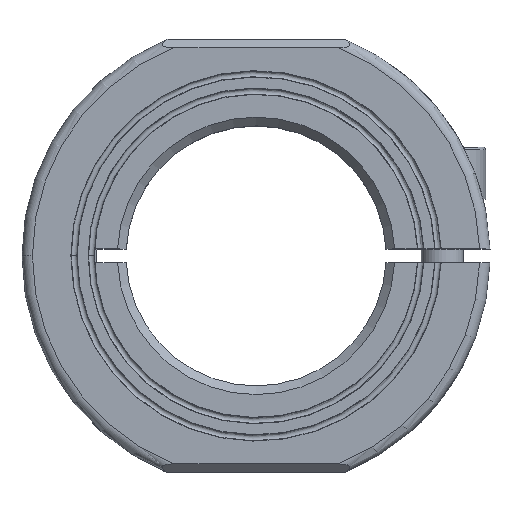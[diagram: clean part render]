
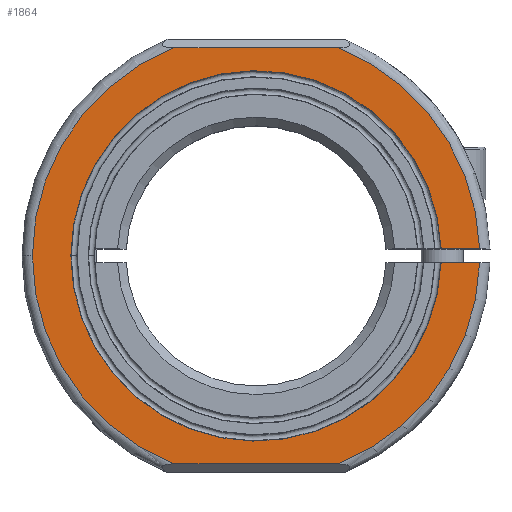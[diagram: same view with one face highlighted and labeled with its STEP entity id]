
A CAD part, top view. The second image highlights one B-rep face of the part: STEP entity #1864.
In plain terms, the highlighted planar face has unit normal (0, 0, 1).
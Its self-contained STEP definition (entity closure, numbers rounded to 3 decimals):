
#156 = CARTESIAN_POINT ( 'NONE',  ( 0., 0., 15. ) ) ;
#195 = AXIS2_PLACEMENT_3D ( 'NONE', #1852, #2628, #3399 ) ;
#203 = CARTESIAN_POINT ( 'NONE',  ( -9.468, 24., 15. ) ) ;
#281 = CIRCLE ( 'NONE', #331, 25.8 ) ;
#321 = VERTEX_POINT ( 'NONE', #514 ) ;
#329 = VECTOR ( 'NONE', #3091, 1000. ) ;
#331 = AXIS2_PLACEMENT_3D ( 'NONE', #2599, #2083, #2610 ) ;
#340 = AXIS2_PLACEMENT_3D ( 'NONE', #156, #3312, #959 ) ;
#364 = DIRECTION ( 'NONE',  ( 0., 0., 1. ) ) ;
#444 = EDGE_CURVE ( 'NONE', #1839, #1485, #2295, .T. ) ;
#480 = VERTEX_POINT ( 'NONE', #2028 ) ;
#492 = DIRECTION ( 'NONE',  ( 1., 0., 0. ) ) ;
#514 = CARTESIAN_POINT ( 'NONE',  ( -9.468, -24., 15. ) ) ;
#538 = CARTESIAN_POINT ( 'NONE',  ( -25.8, 0., 15. ) ) ;
#638 = LINE ( 'NONE', #3376, #2664 ) ;
#645 = ORIENTED_EDGE ( 'NONE', *, *, #1985, .F. ) ;
#685 = CIRCLE ( 'NONE', #1561, 25.8 ) ;
#770 = ORIENTED_EDGE ( 'NONE', *, *, #2685, .F. ) ;
#860 = VECTOR ( 'NONE', #2235, 1000. ) ;
#945 = LINE ( 'NONE', #3267, #860 ) ;
#959 = DIRECTION ( 'NONE',  ( 1., 0., 0. ) ) ;
#985 = EDGE_CURVE ( 'NONE', #1838, #1989, #281, .T. ) ;
#1002 = EDGE_CURVE ( 'NONE', #321, #3235, #2875, .T. ) ;
#1084 = EDGE_LOOP ( 'NONE', ( #2590, #2793, #2619, #770, #2914, #1547, #645, #1433, #3391 ) ) ;
#1123 = CARTESIAN_POINT ( 'NONE',  ( 25.788, 0.795, 15. ) ) ;
#1146 = EDGE_CURVE ( 'NONE', #1509, #1989, #945, .T. ) ;
#1281 = AXIS2_PLACEMENT_3D ( 'NONE', #1722, #2281, #2293 ) ;
#1325 = DIRECTION ( 'NONE',  ( 0., 0., -1. ) ) ;
#1379 = VECTOR ( 'NONE', #1741, 1000. ) ;
#1386 = DIRECTION ( 'NONE',  ( 1., 0., 0. ) ) ;
#1433 = ORIENTED_EDGE ( 'NONE', *, *, #1002, .T. ) ;
#1465 = EDGE_CURVE ( 'NONE', #1839, #480, #638, .T. ) ;
#1485 = VERTEX_POINT ( 'NONE', #2614 ) ;
#1509 = VERTEX_POINT ( 'NONE', #3076 ) ;
#1547 = ORIENTED_EDGE ( 'NONE', *, *, #985, .F. ) ;
#1561 = AXIS2_PLACEMENT_3D ( 'NONE', #2135, #1325, #3181 ) ;
#1717 = CARTESIAN_POINT ( 'NONE',  ( -18.377, 0.795, 15. ) ) ;
#1722 = CARTESIAN_POINT ( 'NONE',  ( 0., 0., 15. ) ) ;
#1741 = DIRECTION ( 'NONE',  ( -1., 0., 0. ) ) ;
#1838 = VERTEX_POINT ( 'NONE', #538 ) ;
#1839 = VERTEX_POINT ( 'NONE', #2075 ) ;
#1852 = CARTESIAN_POINT ( 'NONE',  ( 0., 0., 15. ) ) ;
#1855 = EDGE_CURVE ( 'NONE', #480, #3235, #685, .T. ) ;
#1864 = ADVANCED_FACE ( 'NONE', ( #3393 ), #2159, .T. ) ;
#1957 = AXIS2_PLACEMENT_3D ( 'NONE', #3160, #364, #1386 ) ;
#1985 = EDGE_CURVE ( 'NONE', #321, #1838, #2516, .T. ) ;
#1989 = VERTEX_POINT ( 'NONE', #203 ) ;
#2028 = CARTESIAN_POINT ( 'NONE',  ( 25.788, -0.795, 15. ) ) ;
#2075 = CARTESIAN_POINT ( 'NONE',  ( 21.352, -0.795, 15. ) ) ;
#2083 = DIRECTION ( 'NONE',  ( 0., 0., -1. ) ) ;
#2135 = CARTESIAN_POINT ( 'NONE',  ( 0., 0., 15. ) ) ;
#2159 = PLANE ( 'NONE',  #1957 ) ;
#2235 = DIRECTION ( 'NONE',  ( -1., 0., 0. ) ) ;
#2276 = CARTESIAN_POINT ( 'NONE',  ( 9.468, -24., 15. ) ) ;
#2281 = DIRECTION ( 'NONE',  ( 0., 0., -1. ) ) ;
#2293 = DIRECTION ( 'NONE',  ( -1., 0., 0. ) ) ;
#2295 = CIRCLE ( 'NONE', #340, 21.367 ) ;
#2516 = CIRCLE ( 'NONE', #195, 25.8 ) ;
#2590 = ORIENTED_EDGE ( 'NONE', *, *, #1465, .F. ) ;
#2599 = CARTESIAN_POINT ( 'NONE',  ( 0., 0., 15. ) ) ;
#2610 = DIRECTION ( 'NONE',  ( -1., 0., 0. ) ) ;
#2614 = CARTESIAN_POINT ( 'NONE',  ( 21.352, 0.795, 15. ) ) ;
#2619 = ORIENTED_EDGE ( 'NONE', *, *, #2921, .F. ) ;
#2628 = DIRECTION ( 'NONE',  ( 0., 0., -1. ) ) ;
#2664 = VECTOR ( 'NONE', #492, 1000. ) ;
#2685 = EDGE_CURVE ( 'NONE', #1509, #3292, #3268, .T. ) ;
#2793 = ORIENTED_EDGE ( 'NONE', *, *, #444, .T. ) ;
#2845 = CARTESIAN_POINT ( 'NONE',  ( 0., -24., 15. ) ) ;
#2875 = LINE ( 'NONE', #2845, #329 ) ;
#2894 = LINE ( 'NONE', #1717, #1379 ) ;
#2914 = ORIENTED_EDGE ( 'NONE', *, *, #1146, .T. ) ;
#2921 = EDGE_CURVE ( 'NONE', #3292, #1485, #2894, .T. ) ;
#3076 = CARTESIAN_POINT ( 'NONE',  ( 9.468, 24., 15. ) ) ;
#3091 = DIRECTION ( 'NONE',  ( 1., 0., 0. ) ) ;
#3160 = CARTESIAN_POINT ( 'NONE',  ( 0., 25.8, 15. ) ) ;
#3181 = DIRECTION ( 'NONE',  ( -1., 0., 0. ) ) ;
#3235 = VERTEX_POINT ( 'NONE', #2276 ) ;
#3267 = CARTESIAN_POINT ( 'NONE',  ( 0., 24., 15. ) ) ;
#3268 = CIRCLE ( 'NONE', #1281, 25.8 ) ;
#3292 = VERTEX_POINT ( 'NONE', #1123 ) ;
#3312 = DIRECTION ( 'NONE',  ( 0., 0., -1. ) ) ;
#3376 = CARTESIAN_POINT ( 'NONE',  ( -18.377, -0.795, 15. ) ) ;
#3391 = ORIENTED_EDGE ( 'NONE', *, *, #1855, .F. ) ;
#3393 = FACE_OUTER_BOUND ( 'NONE', #1084, .T. ) ;
#3399 = DIRECTION ( 'NONE',  ( -1., 0., 0. ) ) ;
